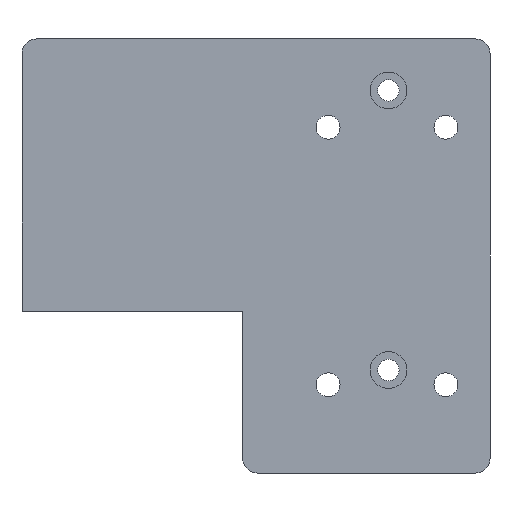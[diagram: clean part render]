
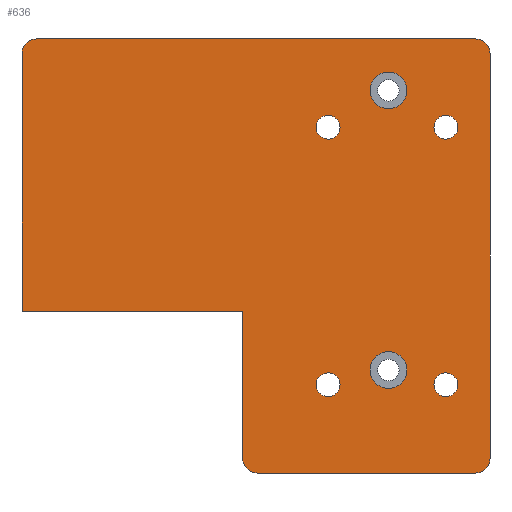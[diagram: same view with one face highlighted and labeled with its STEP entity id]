
A CAD part, front view. The second image highlights one B-rep face of the part: STEP entity #636.
In plain terms, the highlighted planar face has unit normal (0, -1, 0).
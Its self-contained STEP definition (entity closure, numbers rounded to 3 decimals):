
#25=FACE_BOUND('',#123,.T.);
#26=FACE_BOUND('',#124,.T.);
#27=FACE_BOUND('',#125,.T.);
#28=FACE_BOUND('',#126,.T.);
#29=FACE_BOUND('',#127,.T.);
#30=FACE_BOUND('',#128,.T.);
#46=PLANE('',#724);
#77=FACE_OUTER_BOUND('',#122,.T.);
#122=EDGE_LOOP('',(#541,#542,#543,#544,#545,#546,#547,#548,#549,#550));
#123=EDGE_LOOP('',(#551));
#124=EDGE_LOOP('',(#552));
#125=EDGE_LOOP('',(#553));
#126=EDGE_LOOP('',(#554));
#127=EDGE_LOOP('',(#555));
#128=EDGE_LOOP('',(#556));
#151=LINE('',#980,#201);
#159=LINE('',#995,#209);
#163=LINE('',#1005,#213);
#175=LINE('',#1055,#225);
#181=LINE('',#1066,#231);
#186=LINE('',#1086,#236);
#201=VECTOR('',#787,10.);
#209=VECTOR('',#797,10.);
#213=VECTOR('',#809,10.);
#225=VECTOR('',#863,10.);
#231=VECTOR('',#873,10.);
#236=VECTOR('',#898,10.);
#242=CIRCLE('',#670,1.621);
#244=CIRCLE('',#673,1.621);
#246=CIRCLE('',#676,1.621);
#248=CIRCLE('',#679,1.621);
#254=CIRCLE('',#690,2.);
#257=CIRCLE('',#696,2.);
#260=CIRCLE('',#701,2.5);
#263=CIRCLE('',#707,2.5);
#270=CIRCLE('',#721,2.);
#271=CIRCLE('',#723,2.);
#278=VERTEX_POINT('',#936);
#280=VERTEX_POINT('',#942);
#282=VERTEX_POINT('',#948);
#284=VERTEX_POINT('',#954);
#294=VERTEX_POINT('',#977);
#295=VERTEX_POINT('',#979);
#298=VERTEX_POINT('',#987);
#301=VERTEX_POINT('',#993);
#302=VERTEX_POINT('',#999);
#303=VERTEX_POINT('',#1003);
#311=VERTEX_POINT('',#1026);
#314=VERTEX_POINT('',#1037);
#319=VERTEX_POINT('',#1052);
#320=VERTEX_POINT('',#1054);
#323=VERTEX_POINT('',#1064);
#328=VERTEX_POINT('',#1082);
#335=EDGE_CURVE('',#278,#278,#242,.T.);
#338=EDGE_CURVE('',#280,#280,#244,.T.);
#341=EDGE_CURVE('',#282,#282,#246,.T.);
#344=EDGE_CURVE('',#284,#284,#248,.T.);
#356=EDGE_CURVE('',#294,#295,#151,.T.);
#364=EDGE_CURVE('',#301,#298,#159,.T.);
#366=EDGE_CURVE('',#302,#294,#254,.T.);
#369=EDGE_CURVE('',#302,#303,#163,.T.);
#376=EDGE_CURVE('',#298,#303,#257,.T.);
#379=EDGE_CURVE('',#311,#311,#260,.T.);
#384=EDGE_CURVE('',#314,#314,#263,.T.);
#392=EDGE_CURVE('',#319,#320,#175,.T.);
#399=EDGE_CURVE('',#319,#323,#181,.T.);
#406=EDGE_CURVE('',#320,#301,#270,.T.);
#407=EDGE_CURVE('',#295,#328,#271,.T.);
#409=EDGE_CURVE('',#323,#328,#186,.T.);
#541=ORIENTED_EDGE('',*,*,#366,.F.);
#542=ORIENTED_EDGE('',*,*,#369,.T.);
#543=ORIENTED_EDGE('',*,*,#376,.F.);
#544=ORIENTED_EDGE('',*,*,#364,.F.);
#545=ORIENTED_EDGE('',*,*,#406,.F.);
#546=ORIENTED_EDGE('',*,*,#392,.F.);
#547=ORIENTED_EDGE('',*,*,#399,.T.);
#548=ORIENTED_EDGE('',*,*,#409,.T.);
#549=ORIENTED_EDGE('',*,*,#407,.F.);
#550=ORIENTED_EDGE('',*,*,#356,.F.);
#551=ORIENTED_EDGE('',*,*,#335,.T.);
#552=ORIENTED_EDGE('',*,*,#338,.T.);
#553=ORIENTED_EDGE('',*,*,#341,.T.);
#554=ORIENTED_EDGE('',*,*,#344,.T.);
#555=ORIENTED_EDGE('',*,*,#379,.T.);
#556=ORIENTED_EDGE('',*,*,#384,.T.);
#636=ADVANCED_FACE('',(#77,#25,#26,#27,#28,#29,#30),#46,.F.);
#670=AXIS2_PLACEMENT_3D('',#937,#744,#745);
#673=AXIS2_PLACEMENT_3D('',#943,#751,#752);
#676=AXIS2_PLACEMENT_3D('',#949,#758,#759);
#679=AXIS2_PLACEMENT_3D('',#955,#765,#766);
#690=AXIS2_PLACEMENT_3D('',#1000,#803,#804);
#696=AXIS2_PLACEMENT_3D('',#1019,#822,#823);
#701=AXIS2_PLACEMENT_3D('',#1027,#832,#833);
#707=AXIS2_PLACEMENT_3D('',#1038,#846,#847);
#721=AXIS2_PLACEMENT_3D('',#1080,#889,#890);
#723=AXIS2_PLACEMENT_3D('',#1083,#893,#894);
#724=AXIS2_PLACEMENT_3D('',#1085,#896,#897);
#744=DIRECTION('center_axis',(0.,1.,0.));
#745=DIRECTION('ref_axis',(1.,0.,0.));
#751=DIRECTION('center_axis',(0.,1.,0.));
#752=DIRECTION('ref_axis',(1.,0.,0.));
#758=DIRECTION('center_axis',(0.,1.,0.));
#759=DIRECTION('ref_axis',(1.,0.,0.));
#765=DIRECTION('center_axis',(0.,1.,0.));
#766=DIRECTION('ref_axis',(1.,0.,0.));
#787=DIRECTION('',(-1.,0.,0.));
#797=DIRECTION('',(1.,0.,0.));
#803=DIRECTION('center_axis',(0.,1.,0.));
#804=DIRECTION('ref_axis',(0.707,0.,-0.707));
#809=DIRECTION('',(0.,0.,1.));
#822=DIRECTION('center_axis',(0.,1.,0.));
#823=DIRECTION('ref_axis',(0.707,0.,0.707));
#832=DIRECTION('center_axis',(0.,1.,0.));
#833=DIRECTION('ref_axis',(1.,0.,0.));
#846=DIRECTION('center_axis',(0.,1.,0.));
#847=DIRECTION('ref_axis',(1.,0.,0.));
#863=DIRECTION('',(0.,0.,1.));
#873=DIRECTION('',(1.,0.,0.));
#889=DIRECTION('center_axis',(0.,1.,0.));
#890=DIRECTION('ref_axis',(-0.707,0.,0.707));
#893=DIRECTION('center_axis',(0.,1.,0.));
#894=DIRECTION('ref_axis',(-0.707,0.,-0.707));
#896=DIRECTION('center_axis',(0.,1.,0.));
#897=DIRECTION('ref_axis',(0.,0.,1.));
#898=DIRECTION('',(0.,0.,-1.));
#936=CARTESIAN_POINT('',(39.979,0.,-47.));
#937=CARTESIAN_POINT('Origin',(41.6,0.,-47.));
#942=CARTESIAN_POINT('',(39.979,0.,-12.));
#943=CARTESIAN_POINT('Origin',(41.6,0.,-12.));
#948=CARTESIAN_POINT('',(55.979,0.,-47.));
#949=CARTESIAN_POINT('Origin',(57.6,0.,-47.));
#954=CARTESIAN_POINT('',(55.979,0.,-12.));
#955=CARTESIAN_POINT('Origin',(57.6,0.,-12.));
#977=CARTESIAN_POINT('',(61.6,0.,-59.));
#979=CARTESIAN_POINT('',(32.,0.,-59.));
#980=CARTESIAN_POINT('',(69.6,0.,-59.));
#987=CARTESIAN_POINT('',(61.6,0.,0.));
#993=CARTESIAN_POINT('',(2.,0.,0.));
#995=CARTESIAN_POINT('',(0.,0.,0.));
#999=CARTESIAN_POINT('',(63.6,0.,-57.));
#1000=CARTESIAN_POINT('Origin',(61.6,0.,-57.));
#1003=CARTESIAN_POINT('',(63.6,0.,-2.));
#1005=CARTESIAN_POINT('',(63.6,0.,-14.75));
#1019=CARTESIAN_POINT('Origin',(61.6,0.,-2.));
#1026=CARTESIAN_POINT('',(47.3,0.,-45.));
#1027=CARTESIAN_POINT('Origin',(49.8,0.,-45.));
#1037=CARTESIAN_POINT('',(47.3,0.,-7.));
#1038=CARTESIAN_POINT('Origin',(49.8,0.,-7.));
#1052=CARTESIAN_POINT('',(0.,0.,-37.));
#1054=CARTESIAN_POINT('',(0.,0.,-2.));
#1055=CARTESIAN_POINT('',(0.,0.,-59.));
#1064=CARTESIAN_POINT('',(30.,0.,-37.));
#1066=CARTESIAN_POINT('',(32.4,0.,-37.));
#1080=CARTESIAN_POINT('Origin',(2.,0.,-2.));
#1082=CARTESIAN_POINT('',(30.,0.,-57.));
#1083=CARTESIAN_POINT('Origin',(32.,0.,-57.));
#1085=CARTESIAN_POINT('Origin',(34.8,0.,-29.5));
#1086=CARTESIAN_POINT('',(30.,0.,-44.25));
